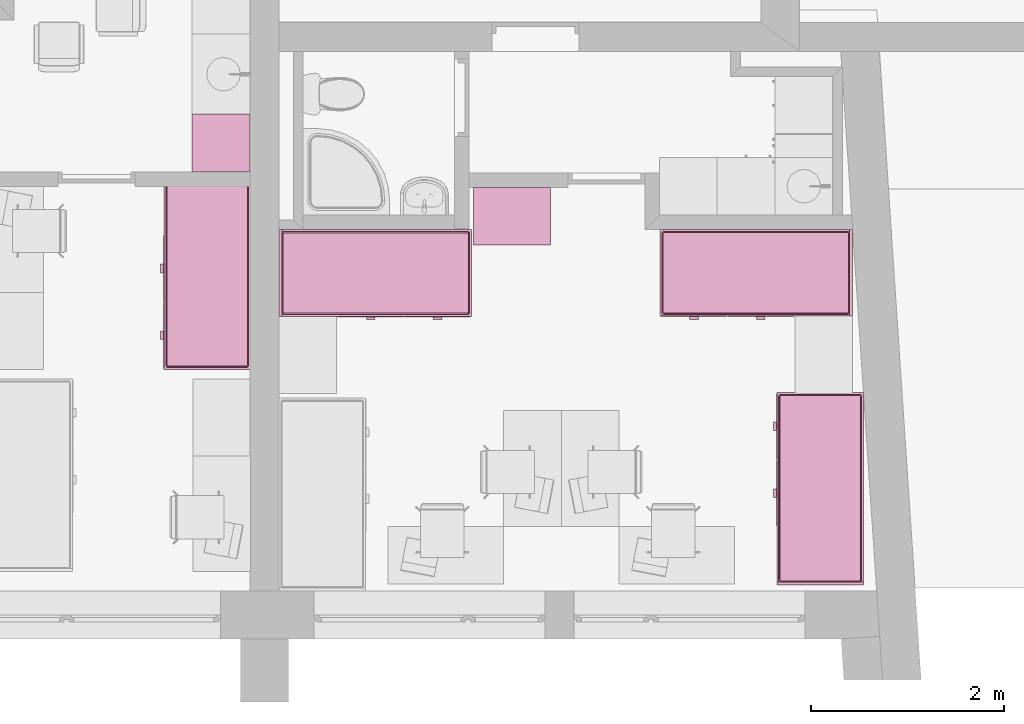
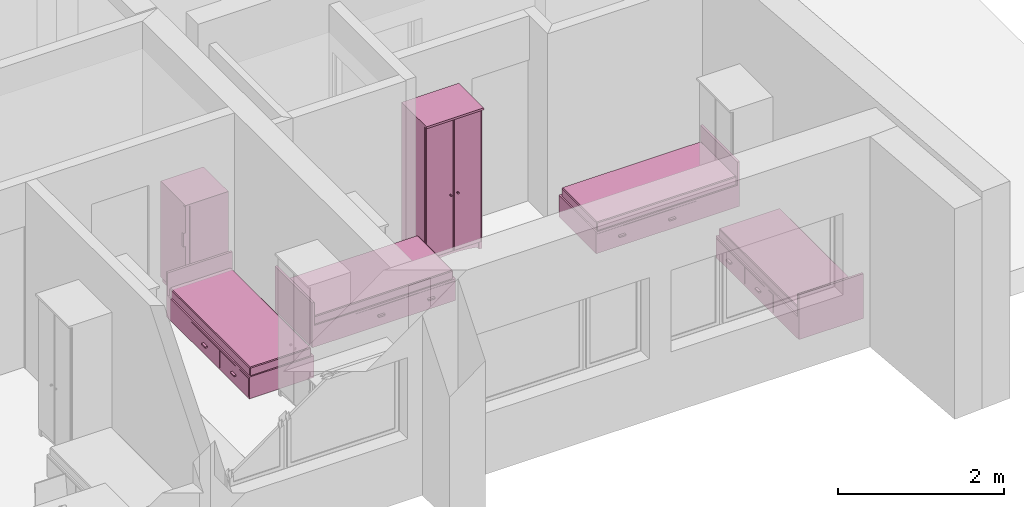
# One storey, part 148 of 172: 6 furnishings.
"""IFC2X3 building model written with IfcOpenShell, lengths in millimetres."""

from ifc_helpers import new_model, entity, si_unit, converted_unit, money_unit, direction, frame, origin_with_axes, place, context, subcontext, project, spatial, open_shell, faceted_brep, surface_model, source, transform, mapped, material, material_list, type_object, element, save


model = new_model("IFC2X3")

# Units and contexts
model_context = context("Model", 3, precision=1e-05, world=origin_with_axes(), true_north=direction((0.0, 1.0)))
body_context = subcontext(model_context, "Body", "Model", "MODEL_VIEW")
ifc_project = project(units=[si_unit("LENGTHUNIT", "METRE", prefix="MILLI"), si_unit("AREAUNIT", "SQUARE_METRE"), si_unit("VOLUMEUNIT", "CUBIC_METRE"), converted_unit("PLANEANGLEUNIT", "DEGREE", entity("IfcPlaneAngleMeasure", 0.0174532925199), si_unit("PLANEANGLEUNIT", "RADIAN"), dimensions=[0, 0, 0, 0, 0, 0, 0]), si_unit("SOLIDANGLEUNIT", "STERADIAN"), money_unit("USD"), converted_unit("TIMEUNIT", "Year", entity("IfcTimeMeasure", 31556926.0), si_unit("TIMEUNIT", "SECOND"), dimensions=[0, 0, 0, 0, 0, 0, 0]), si_unit("MASSUNIT", "GRAM"), si_unit("THERMODYNAMICTEMPERATUREUNIT", "DEGREE_CELSIUS"), si_unit("LUMINOUSINTENSITYUNIT", "LUMEN")], contexts=[model_context])

# Site, building, storey
site_placement = place(None, origin_with_axes())
site = spatial("IfcSite", under=ifc_project, at=site_placement, Name="Site", CompositionType="ELEMENT")
building_placement = place(site_placement, origin_with_axes())
building = spatial("IfcBuilding", under=site, at=building_placement, Name="Building", CompositionType="ELEMENT")
storey_placement = place(building_placement, frame((0.0, 0.0, 3200.0), z_axis=(0.0, 0.0, 1.0), x_axis=(1.0, 0.0, 0.0)))
storey = spatial("IfcBuildingStorey", under=building, at=storey_placement, Name="3KORRUS", CompositionType="ELEMENT", Elevation=3200.0)

# Furnishings
ifc_material = material(Name="Background")
ifc_material_list = material_list([ifc_material])
furnishing_element_type_1 = type_object("IfcFurnishingElementType", Name="Bed 19")
shared_shape_1 = source(origin_with_axes(), body_context, "Body", "Brep", [
    faceted_brep([(900.0, 1970.0, 0.0), (0.0, 1970.0, 0.0), (0.0, 2000.0, 0.0), (900.0, 2000.0, 0.0), (900.0, 1970.0, 660.0), (0.0, 1970.0, 660.0), (0.0, 2000.0, 660.0), (900.0, 2000.0, 660.0)], [[[0, 1, 2, 3]], [[1, 0, 4, 5]], [[2, 1, 5, 6]], [[3, 2, 6, 7]], [[0, 3, 7, 4]], [[5, 4, 7, 6]]]),
    faceted_brep([(900.0, 0.0, 0.0), (0.0, 0.0, 0.0), (0.0, 1970.0, 0.0), (900.0, 1970.0, 0.0), (900.0, 0.0, 320.0), (0.0, 0.0, 320.0), (0.0, 1970.0, 320.0), (900.0, 1970.0, 320.0)], [[[0, 1, 2, 3]], [[1, 0, 4, 5]], [[2, 1, 5, 6]], [[3, 2, 6, 7]], [[0, 3, 7, 4]], [[5, 4, 7, 6]]]),
    faceted_brep([(905.0, 10.0, 30.0), (900.0, 10.0, 30.0), (900.0, 695.0, 30.0), (905.0, 695.0, 30.0), (905.0, 10.0, 290.0), (900.0, 10.0, 290.0), (900.0, 695.0, 290.0), (905.0, 695.0, 290.0)], [[[0, 1, 2, 3]], [[1, 0, 4, 5]], [[2, 1, 5, 6]], [[3, 2, 6, 7]], [[0, 3, 7, 4]], [[5, 4, 7, 6]]]),
    faceted_brep([(935.0, 307.5, 150.0), (905.0, 307.5, 150.0), (905.0, 397.5, 150.0), (935.0, 397.5, 150.0), (935.0, 307.5, 170.0), (905.0, 307.5, 170.0), (905.0, 397.5, 170.0), (935.0, 397.5, 170.0)], [[[0, 1, 2, 3]], [[1, 0, 4, 5]], [[2, 1, 5, 6]], [[3, 2, 6, 7]], [[0, 3, 7, 4]], [[5, 4, 7, 6]]]),
    faceted_brep([(905.0, 705.0, 30.0), (900.0, 705.0, 30.0), (900.0, 1390.0, 30.0), (905.0, 1390.0, 30.0), (905.0, 705.0, 290.0), (900.0, 705.0, 290.0), (900.0, 1390.0, 290.0), (905.0, 1390.0, 290.0)], [[[0, 1, 2, 3]], [[1, 0, 4, 5]], [[2, 1, 5, 6]], [[3, 2, 6, 7]], [[0, 3, 7, 4]], [[5, 4, 7, 6]]]),
    faceted_brep([(935.0, 1002.5, 150.0), (905.0, 1002.5, 150.0), (905.0, 1092.5, 150.0), (935.0, 1092.5, 150.0), (935.0, 1002.5, 170.0), (905.0, 1002.5, 170.0), (905.0, 1092.5, 170.0), (935.0, 1092.5, 170.0)], [[[0, 1, 2, 3]], [[1, 0, 4, 5]], [[2, 1, 5, 6]], [[3, 2, 6, 7]], [[0, 3, 7, 4]], [[5, 4, 7, 6]]]),
    faceted_brep([(20.0, 40.0, 350.0), (20.0, 1950.0, 350.0), (21.522, 1957.654, 350.0), (25.858, 1964.142, 350.0), (32.346, 1968.478, 350.0), (40.0, 1970.0, 350.0), (860.0, 1970.0, 350.0), (867.654, 1968.478, 350.0), (874.142, 1964.142, 350.0), (878.478, 1957.654, 350.0), (880.0, 1950.0, 350.0), (880.0, 40.0, 350.0), (878.478, 32.346, 350.0), (874.142, 25.858, 350.0), (867.654, 21.522, 350.0), (860.0, 20.0, 350.0), (40.0, 20.0, 350.0), (32.346, 21.522, 350.0), (25.858, 25.858, 350.0), (21.522, 32.346, 350.0), (20.0, 40.0, 420.0), (20.0, 1950.0, 420.0), (21.522, 1957.654, 420.0), (25.858, 1964.142, 420.0), (32.346, 1968.478, 420.0), (40.0, 1970.0, 420.0), (860.0, 1970.0, 420.0), (867.654, 1968.478, 420.0), (874.142, 1964.142, 420.0), (878.478, 1957.654, 420.0), (880.0, 1950.0, 420.0), (880.0, 40.0, 420.0), (878.478, 32.346, 420.0), (874.142, 25.858, 420.0), (867.654, 21.522, 420.0), (860.0, 20.0, 420.0), (40.0, 20.0, 420.0), (32.346, 21.522, 420.0), (25.858, 25.858, 420.0), (21.522, 32.346, 420.0), (21.522, 40.15, 427.654), (21.522, 1949.85, 427.654), (22.956, 1957.06, 427.654), (26.955, 1963.045, 427.654), (32.94, 1967.044, 427.654), (40.15, 1968.478, 427.654), (859.85, 1968.478, 427.654), (867.06, 1967.044, 427.654), (873.045, 1963.045, 427.654), (877.044, 1957.06, 427.654), (878.478, 1949.85, 427.654), (878.478, 40.15, 427.654), (877.044, 32.94, 427.654), (873.045, 26.955, 427.654), (867.06, 22.956, 427.654), (859.85, 21.522, 427.654), (40.15, 21.522, 427.654), (32.94, 22.956, 427.654), (26.955, 26.955, 427.654), (22.956, 32.94, 427.654), (32.346, 41.216, 438.478), (32.346, 1948.784, 438.478), (33.152, 1952.836, 438.478), (34.759, 1955.241, 438.478), (37.164, 1956.848, 438.478), (41.216, 1957.654, 438.478), (858.784, 1957.654, 438.478), (862.836, 1956.848, 438.478), (865.241, 1955.241, 438.478), (866.848, 1952.836, 438.478), (867.654, 1948.784, 438.478), (867.654, 41.216, 438.478), (866.848, 37.164, 438.478), (865.241, 34.759, 438.478), (862.836, 33.152, 438.478), (858.784, 32.346, 438.478), (41.216, 32.346, 438.478), (37.164, 33.152, 438.478), (34.759, 34.759, 438.478), (33.152, 37.164, 438.478), (40.0, 41.97, 440.0), (40.0, 1948.03, 440.0), (40.327, 1949.673, 440.0), (40.0, 1950.0, 439.924), (41.97, 1950.0, 440.0), (858.03, 1950.0, 440.0), (859.673, 1949.673, 440.0), (860.0, 1950.0, 439.924), (860.0, 1948.03, 440.0), (860.0, 41.97, 440.0), (859.673, 40.327, 440.0), (860.0, 40.0, 439.924), (858.03, 40.0, 440.0), (41.97, 40.0, 440.0), (40.327, 40.327, 440.0), (40.0, 40.0, 439.924)], [[[0, 1, 2, 3, 4, 5, 6, 7, 8, 9, 10, 11, 12, 13, 14, 15, 16, 17, 18, 19]], [[1, 0, 20, 21]], [[2, 1, 21, 22]], [[3, 2, 22, 23]], [[4, 3, 23, 24]], [[5, 4, 24, 25]], [[6, 5, 25, 26]], [[7, 6, 26, 27]], [[8, 7, 27, 28]], [[9, 8, 28, 29]], [[10, 9, 29, 30]], [[11, 10, 30, 31]], [[12, 11, 31, 32]], [[13, 12, 32, 33]], [[14, 13, 33, 34]], [[15, 14, 34, 35]], [[16, 15, 35, 36]], [[17, 16, 36, 37]], [[18, 17, 37, 38]], [[19, 18, 38, 39]], [[0, 19, 39, 20]], [[21, 20, 40, 41]], [[22, 21, 41, 42]], [[23, 22, 42, 43]], [[24, 23, 43, 44]], [[25, 24, 44, 45]], [[26, 25, 45, 46]], [[27, 26, 46, 47]], [[28, 27, 47, 48]], [[29, 28, 48, 49]], [[30, 29, 49, 50]], [[31, 30, 50, 51]], [[32, 31, 51, 52]], [[33, 32, 52, 53]], [[34, 33, 53, 54]], [[35, 34, 54, 55]], [[36, 35, 55, 56]], [[37, 36, 56, 57]], [[38, 37, 57, 58]], [[39, 38, 58, 59]], [[20, 39, 59, 40]], [[41, 40, 60, 61]], [[42, 41, 61, 62]], [[43, 42, 62, 63]], [[44, 43, 63, 64]], [[45, 44, 64, 65]], [[46, 45, 65, 66]], [[47, 46, 66, 67]], [[48, 47, 67, 68]], [[49, 48, 68, 69]], [[50, 49, 69, 70]], [[51, 50, 70, 71]], [[52, 51, 71, 72]], [[53, 52, 72, 73]], [[54, 53, 73, 74]], [[55, 54, 74, 75]], [[56, 55, 75, 76]], [[57, 56, 76, 77]], [[58, 57, 77, 78]], [[59, 58, 78, 79]], [[40, 59, 79, 60]], [[61, 60, 80, 81]], [[62, 61, 81, 82, 83]], [[63, 62, 83]], [[64, 63, 83]], [[65, 64, 83, 82, 84]], [[66, 65, 84, 85]], [[67, 66, 85, 86, 87]], [[68, 67, 87]], [[69, 68, 87]], [[70, 69, 87, 86, 88]], [[71, 70, 88, 89]], [[72, 71, 89, 90, 91]], [[73, 72, 91]], [[74, 73, 91]], [[75, 74, 91, 90, 92]], [[76, 75, 92, 93]], [[77, 76, 93, 94, 95]], [[78, 77, 95]], [[79, 78, 95]], [[60, 79, 95, 94, 80]], [[81, 80, 94, 93, 92, 90, 89, 88, 86, 85, 84, 82]]]),
    faceted_brep([(20.0, 40.0, 350.0), (21.522, 32.346, 350.0), (25.858, 25.858, 350.0), (32.346, 21.522, 350.0), (40.0, 20.0, 350.0), (860.0, 20.0, 350.0), (867.654, 21.522, 350.0), (874.142, 25.858, 350.0), (878.478, 32.346, 350.0), (880.0, 40.0, 350.0), (880.0, 1950.0, 350.0), (878.478, 1957.654, 350.0), (874.142, 1964.142, 350.0), (867.654, 1968.478, 350.0), (860.0, 1970.0, 350.0), (40.0, 1970.0, 350.0), (32.346, 1968.478, 350.0), (25.858, 1964.142, 350.0), (21.522, 1957.654, 350.0), (20.0, 1950.0, 350.0), (20.0, 40.0, 320.0), (21.522, 32.346, 320.0), (25.858, 25.858, 320.0), (32.346, 21.522, 320.0), (40.0, 20.0, 320.0), (860.0, 20.0, 320.0), (867.654, 21.522, 320.0), (874.142, 25.858, 320.0), (878.478, 32.346, 320.0), (880.0, 40.0, 320.0), (880.0, 1950.0, 320.0), (878.478, 1957.654, 320.0), (874.142, 1964.142, 320.0), (867.654, 1968.478, 320.0), (860.0, 1970.0, 320.0), (40.0, 1970.0, 320.0), (32.346, 1968.478, 320.0), (25.858, 1964.142, 320.0), (21.522, 1957.654, 320.0), (20.0, 1950.0, 320.0)], [[[0, 1, 2, 3, 4, 5, 6, 7, 8, 9, 10, 11, 12, 13, 14, 15, 16, 17, 18, 19]], [[0, 20, 21, 1]], [[1, 21, 22, 2]], [[2, 22, 23, 3]], [[3, 23, 24, 4]], [[4, 24, 25, 5]], [[5, 25, 26, 6]], [[6, 26, 27, 7]], [[7, 27, 28, 8]], [[8, 28, 29, 9]], [[9, 29, 30, 10]], [[10, 30, 31, 11]], [[11, 31, 32, 12]], [[12, 32, 33, 13]], [[13, 33, 34, 14]], [[14, 34, 35, 15]], [[15, 35, 36, 16]], [[16, 36, 37, 17]], [[17, 37, 38, 18]], [[18, 38, 39, 19]], [[19, 39, 20, 0]], [[20, 39, 38, 37, 36, 35, 34, 33, 32, 31, 30, 29, 28, 27, 26, 25, 24, 23, 22, 21]]]),
])
for number, where, z_axis, x_axis, name in (
    (1, (15968.0609283, -15888.0262806, 0.0), (0.0, 0.0, 1.0), (0.0, -1.0, 0.0), "FU - 013"),
    (2, (18080.4578375, -17578.2052379, 0.0), (0.0, 0.0, 1.0), (-1.0, 0.0, 0.0), "FU - 013"),
):
    element("IfcFurnishingElement", number, at=place(storey_placement, frame(where, z_axis=z_axis, x_axis=x_axis)), inside=storey, type_object=furnishing_element_type_1, material=ifc_material_list, Name=name, context=body_context, shape_type="MappedRepresentation", body=[
        mapped(shared_shape_1, transform((0.0, 0.0, 0.0))),
    ])
furnishing_element_type_2 = type_object("IfcFurnishingElementType", Name="Cupboard 19")
shared_shape_2 = source(origin_with_axes(), body_context, "Body", "Brep", [
    faceted_brep([(780.0, 600.0, 120.0), (780.0, 600.0, 2050.0), (780.0, 580.0, 2050.0), (780.0, 580.0, 120.0), (20.0, 600.0, 120.0), (20.0, 600.0, 2050.0), (20.0, 580.0, 2050.0), (20.0, 580.0, 120.0)], [[[0, 1, 2, 3]], [[4, 5, 1, 0]], [[1, 5, 6, 2]], [[3, 2, 6, 7]], [[0, 3, 7, 4]], [[7, 6, 5, 4]]]),
    faceted_brep([(0.0, 50.0, 100.0), (0.0, 600.0, 100.0), (20.0, 600.0, 100.0), (20.0, 50.0, 100.0), (0.0, 50.0, 2070.0), (0.0, 600.0, 2070.0), (20.0, 600.0, 2070.0), (20.0, 50.0, 2070.0)], [[[0, 1, 2, 3]], [[0, 4, 5, 1]], [[1, 5, 6, 2]], [[2, 6, 7, 3]], [[3, 7, 4, 0]], [[7, 6, 5, 4]]]),
    faceted_brep([(780.0, 50.0, 100.0), (780.0, 600.0, 100.0), (800.0, 600.0, 100.0), (800.0, 50.0, 100.0), (780.0, 50.0, 2070.0), (780.0, 600.0, 2070.0), (800.0, 600.0, 2070.0), (800.0, 50.0, 2070.0)], [[[0, 1, 2, 3]], [[0, 4, 5, 1]], [[1, 5, 6, 2]], [[2, 6, 7, 3]], [[3, 7, 4, 0]], [[7, 6, 5, 4]]]),
    faceted_brep([(20.0, 50.0, 100.0), (20.0, 600.0, 100.0), (780.0, 600.0, 100.0), (780.0, 50.0, 100.0), (20.0, 50.0, 120.0), (20.0, 600.0, 120.0), (780.0, 600.0, 120.0), (780.0, 50.0, 120.0)], [[[0, 1, 2, 3]], [[0, 4, 5, 1]], [[1, 5, 6, 2]], [[2, 6, 7, 3]], [[3, 7, 4, 0]], [[7, 6, 5, 4]]]),
    faceted_brep([(20.0, 50.0, 2050.0), (20.0, 600.0, 2050.0), (780.0, 600.0, 2050.0), (780.0, 50.0, 2050.0), (20.0, 50.0, 2070.0), (20.0, 600.0, 2070.0), (780.0, 600.0, 2070.0), (780.0, 50.0, 2070.0)], [[[0, 1, 2, 3]], [[0, 4, 5, 1]], [[1, 5, 6, 2]], [[2, 6, 7, 3]], [[3, 7, 4, 0]], [[7, 6, 5, 4]]]),
    faceted_brep([(0.0, 600.0, 2070.0), (0.0, 0.0, 2070.0), (0.0, 0.0, 2100.0), (0.0, 600.0, 2100.0), (800.0, 600.0, 2070.0), (800.0, 0.0, 2070.0), (800.0, 0.0, 2100.0), (800.0, 600.0, 2100.0)], [[[0, 1, 2, 3]], [[0, 4, 5, 1]], [[1, 5, 6, 2]], [[3, 2, 6, 7]], [[4, 0, 3, 7]], [[5, 4, 7, 6]]]),
    faceted_brep([(760.0, 590.0, 25.0), (760.0, 570.0, 25.0), (640.962, 570.0, 45.8), (640.962, 590.0, 45.8), (760.0, 590.0, 100.0), (760.0, 570.0, 100.0), (40.0, 570.0, 100.0), (40.0, 570.0, 25.0), (159.038, 570.0, 45.8), (279.23, 570.0, 58.32), (400.0, 570.0, 62.5), (520.77, 570.0, 58.32), (520.77, 590.0, 58.32), (400.0, 590.0, 62.5), (279.23, 590.0, 58.32), (159.038, 590.0, 45.8), (40.0, 590.0, 25.0), (40.0, 590.0, 100.0)], [[[0, 1, 2, 3]], [[4, 5, 1, 0]], [[1, 5, 6, 7, 8, 9, 10, 11, 2]], [[3, 2, 11, 12]], [[0, 3, 12, 13, 14, 15, 16, 17, 4]], [[17, 6, 5, 4]], [[16, 7, 6, 17]], [[15, 8, 7, 16]], [[14, 9, 8, 15]], [[13, 10, 9, 14]], [[12, 11, 10, 13]]]),
    faceted_brep([(760.0, 80.0, 25.0), (760.0, 60.0, 25.0), (640.962, 60.0, 45.8), (640.962, 80.0, 45.8), (760.0, 80.0, 100.0), (760.0, 60.0, 100.0), (40.0, 60.0, 100.0), (40.0, 60.0, 25.0), (159.038, 60.0, 45.8), (279.23, 60.0, 58.32), (400.0, 60.0, 62.5), (520.77, 60.0, 58.32), (520.77, 80.0, 58.32), (400.0, 80.0, 62.5), (279.23, 80.0, 58.32), (159.038, 80.0, 45.8), (40.0, 80.0, 25.0), (40.0, 80.0, 100.0)], [[[0, 1, 2, 3]], [[4, 5, 1, 0]], [[1, 5, 6, 7, 8, 9, 10, 11, 2]], [[3, 2, 11, 12]], [[0, 3, 12, 13, 14, 15, 16, 17, 4]], [[17, 6, 5, 4]], [[16, 7, 6, 17]], [[15, 8, 7, 16]], [[14, 9, 8, 15]], [[13, 10, 9, 14]], [[12, 11, 10, 13]]]),
    faceted_brep([(790.0, 90.0, 25.0), (770.0, 90.0, 25.0), (770.0, 141.266, 38.072), (790.0, 141.266, 38.072), (790.0, 90.0, 100.0), (770.0, 90.0, 100.0), (770.0, 560.0, 100.0), (770.0, 560.0, 25.0), (770.0, 508.734, 38.072), (770.0, 456.752, 47.92), (770.0, 404.257, 54.508), (770.0, 351.453, 57.808), (770.0, 298.547, 57.808), (770.0, 245.743, 54.508), (770.0, 193.248, 47.92), (790.0, 193.248, 47.92), (790.0, 245.743, 54.508), (790.0, 298.547, 57.808), (790.0, 351.453, 57.808), (790.0, 404.257, 54.508), (790.0, 456.752, 47.92), (790.0, 508.734, 38.072), (790.0, 560.0, 25.0), (790.0, 560.0, 100.0)], [[[0, 1, 2, 3]], [[4, 5, 1, 0]], [[1, 5, 6, 7, 8, 9, 10, 11, 12, 13, 14, 2]], [[3, 2, 14, 15]], [[0, 3, 15, 16, 17, 18, 19, 20, 21, 22, 23, 4]], [[23, 6, 5, 4]], [[22, 7, 6, 23]], [[21, 8, 7, 22]], [[20, 9, 8, 21]], [[19, 10, 9, 20]], [[18, 11, 10, 19]], [[17, 12, 11, 18]], [[16, 13, 12, 17]], [[15, 14, 13, 16]]]),
    faceted_brep([(30.0, 90.0, 25.0), (10.0, 90.0, 25.0), (10.0, 141.266, 38.072), (30.0, 141.266, 38.072), (30.0, 90.0, 100.0), (10.0, 90.0, 100.0), (10.0, 560.0, 100.0), (10.0, 560.0, 25.0), (10.0, 508.734, 38.072), (10.0, 456.752, 47.92), (10.0, 404.257, 54.508), (10.0, 351.453, 57.808), (10.0, 298.547, 57.808), (10.0, 245.743, 54.508), (10.0, 193.248, 47.92), (30.0, 193.248, 47.92), (30.0, 245.743, 54.508), (30.0, 298.547, 57.808), (30.0, 351.453, 57.808), (30.0, 404.257, 54.508), (30.0, 456.752, 47.92), (30.0, 508.734, 38.072), (30.0, 560.0, 25.0), (30.0, 560.0, 100.0)], [[[0, 1, 2, 3]], [[4, 5, 1, 0]], [[1, 5, 6, 7, 8, 9, 10, 11, 12, 13, 14, 2]], [[3, 2, 14, 15]], [[0, 3, 15, 16, 17, 18, 19, 20, 21, 22, 23, 4]], [[23, 6, 5, 4]], [[22, 7, 6, 23]], [[21, 8, 7, 22]], [[20, 9, 8, 21]], [[19, 10, 9, 20]], [[18, 11, 10, 19]], [[17, 12, 11, 18]], [[16, 13, 12, 17]], [[15, 14, 13, 16]]]),
    faceted_brep([(760.0, 560.0, 0.0), (760.0, 560.0, 100.0), (760.0, 600.0, 100.0), (760.0, 600.0, 0.0), (800.0, 560.0, 0.0), (800.0, 560.0, 100.0), (800.0, 600.0, 100.0), (800.0, 600.0, 0.0)], [[[0, 1, 2, 3]], [[4, 5, 1, 0]], [[1, 5, 6, 2]], [[3, 2, 6, 7]], [[0, 3, 7, 4]], [[7, 6, 5, 4]]]),
    faceted_brep([(0.0, 560.0, 0.0), (0.0, 560.0, 100.0), (0.0, 600.0, 100.0), (0.0, 600.0, 0.0), (40.0, 560.0, 0.0), (40.0, 560.0, 100.0), (40.0, 600.0, 100.0), (40.0, 600.0, 0.0)], [[[0, 1, 2, 3]], [[4, 5, 1, 0]], [[1, 5, 6, 2]], [[3, 2, 6, 7]], [[0, 3, 7, 4]], [[7, 6, 5, 4]]]),
    faceted_brep([(760.0, 50.0, 0.0), (760.0, 50.0, 100.0), (760.0, 90.0, 100.0), (760.0, 90.0, 0.0), (800.0, 50.0, 0.0), (800.0, 50.0, 100.0), (800.0, 90.0, 100.0), (800.0, 90.0, 0.0)], [[[0, 1, 2, 3]], [[4, 5, 1, 0]], [[1, 5, 6, 2]], [[3, 2, 6, 7]], [[0, 3, 7, 4]], [[7, 6, 5, 4]]]),
    faceted_brep([(0.0, 50.0, 0.0), (0.0, 50.0, 100.0), (0.0, 90.0, 100.0), (0.0, 90.0, 0.0), (40.0, 50.0, 0.0), (40.0, 50.0, 100.0), (40.0, 90.0, 100.0), (40.0, 90.0, 0.0)], [[[0, 1, 2, 3]], [[4, 5, 1, 0]], [[1, 5, 6, 2]], [[3, 2, 6, 7]], [[0, 3, 7, 4]], [[7, 6, 5, 4]]]),
    faceted_brep([(780.0, 580.0, 587.5), (780.0, 580.0, 607.5), (780.0, 50.0, 607.5), (780.0, 50.0, 587.5), (20.0, 580.0, 587.5), (20.0, 580.0, 607.5), (20.0, 50.0, 607.5), (20.0, 50.0, 587.5)], [[[0, 1, 2, 3]], [[4, 5, 1, 0]], [[1, 5, 6, 2]], [[3, 2, 6, 7]], [[0, 3, 7, 4]], [[7, 6, 5, 4]]]),
    faceted_brep([(780.0, 580.0, 1075.0), (780.0, 580.0, 1095.0), (780.0, 50.0, 1095.0), (780.0, 50.0, 1075.0), (20.0, 580.0, 1075.0), (20.0, 580.0, 1095.0), (20.0, 50.0, 1095.0), (20.0, 50.0, 1075.0)], [[[0, 1, 2, 3]], [[4, 5, 1, 0]], [[1, 5, 6, 2]], [[3, 2, 6, 7]], [[0, 3, 7, 4]], [[7, 6, 5, 4]]]),
    faceted_brep([(780.0, 580.0, 1562.5), (780.0, 580.0, 1582.5), (780.0, 50.0, 1582.5), (780.0, 50.0, 1562.5), (20.0, 580.0, 1562.5), (20.0, 580.0, 1582.5), (20.0, 50.0, 1582.5), (20.0, 50.0, 1562.5)], [[[0, 1, 2, 3]], [[4, 5, 1, 0]], [[1, 5, 6, 2]], [[3, 2, 6, 7]], [[0, 3, 7, 4]], [[7, 6, 5, 4]]]),
    faceted_brep([(789.5, 50.0, 110.5), (400.5, 50.0, 110.5), (400.5, 50.0, 2059.5), (789.5, 50.0, 2059.5), (789.5, 40.0, 110.5), (400.5, 40.0, 110.5), (400.5, 40.0, 2059.5), (789.5, 40.0, 2059.5), (779.5, 30.0, 120.5), (410.5, 30.0, 120.5), (410.5, 30.0, 2049.5), (779.5, 30.0, 2049.5)], [[[0, 1, 2, 3]], [[0, 4, 5, 1]], [[1, 5, 6, 2]], [[2, 6, 7, 3]], [[3, 7, 4, 0]], [[4, 8, 9, 5]], [[5, 9, 10, 6]], [[6, 10, 11, 7]], [[7, 11, 8, 4]], [[10, 9, 8, 11]]]),
    faceted_brep([(399.5, 50.0, 110.5), (10.5, 50.0, 110.5), (10.5, 50.0, 2059.5), (399.5, 50.0, 2059.5), (399.5, 40.0, 110.5), (10.5, 40.0, 110.5), (10.5, 40.0, 2059.5), (399.5, 40.0, 2059.5), (389.5, 30.0, 120.5), (20.5, 30.0, 120.5), (20.5, 30.0, 2049.5), (389.5, 30.0, 2049.5)], [[[0, 1, 2, 3]], [[0, 4, 5, 1]], [[1, 5, 6, 2]], [[2, 6, 7, 3]], [[3, 7, 4, 0]], [[4, 8, 9, 5]], [[5, 9, 10, 6]], [[6, 10, 11, 7]], [[7, 11, 8, 4]], [[10, 9, 8, 11]]]),
    faceted_brep([(339.608, 30.0, 954.0), (338.0, 30.0, 960.0), (339.608, 30.0, 966.0), (344.0, 30.0, 970.392), (350.0, 30.0, 972.0), (356.0, 30.0, 970.392), (360.392, 30.0, 966.0), (362.0, 30.0, 960.0), (360.392, 30.0, 954.0), (356.0, 30.0, 949.608), (350.0, 30.0, 948.0), (344.0, 30.0, 949.608), (339.608, 5.0, 954.0), (338.0, 5.0, 960.0), (339.608, 5.0, 966.0), (344.0, 5.0, 970.392), (350.0, 5.0, 972.0), (356.0, 5.0, 970.392), (360.392, 5.0, 966.0), (362.0, 5.0, 960.0), (360.392, 5.0, 954.0), (356.0, 5.0, 949.608), (350.0, 5.0, 948.0), (344.0, 5.0, 949.608)], [[[0, 1, 2, 3, 4, 5, 6, 7, 8, 9, 10, 11]], [[0, 12, 13, 1]], [[1, 13, 14, 2]], [[2, 14, 15, 3]], [[3, 15, 16, 4]], [[4, 16, 17, 5]], [[5, 17, 18, 6]], [[6, 18, 19, 7]], [[7, 19, 20, 8]], [[8, 20, 21, 9]], [[9, 21, 22, 10]], [[10, 22, 23, 11]], [[11, 23, 12, 0]], [[12, 23, 22, 21, 20, 19, 18, 17, 16, 15, 14, 13]]]),
    faceted_brep([(460.392, 30.0, 954.0), (456.0, 30.0, 949.608), (450.0, 30.0, 948.0), (444.0, 30.0, 949.608), (439.608, 30.0, 954.0), (438.0, 30.0, 960.0), (439.608, 30.0, 966.0), (444.0, 30.0, 970.392), (450.0, 30.0, 972.0), (456.0, 30.0, 970.392), (460.392, 30.0, 966.0), (462.0, 30.0, 960.0), (460.392, 5.0, 954.0), (456.0, 5.0, 949.608), (450.0, 5.0, 948.0), (444.0, 5.0, 949.608), (439.608, 5.0, 954.0), (438.0, 5.0, 960.0), (439.608, 5.0, 966.0), (444.0, 5.0, 970.392), (450.0, 5.0, 972.0), (456.0, 5.0, 970.392), (460.392, 5.0, 966.0), (462.0, 5.0, 960.0)], [[[0, 1, 2, 3, 4, 5, 6, 7, 8, 9, 10, 11]], [[1, 0, 12, 13]], [[2, 1, 13, 14]], [[3, 2, 14, 15]], [[4, 3, 15, 16]], [[5, 4, 16, 17]], [[6, 5, 17, 18]], [[7, 6, 18, 19]], [[8, 7, 19, 20]], [[9, 8, 20, 21]], [[10, 9, 21, 22]], [[11, 10, 22, 23]], [[0, 11, 23, 12]], [[12, 23, 22, 21, 20, 19, 18, 17, 16, 15, 14, 13]]]),
])
furnishing_1_placement = place(storey_placement, frame((14029.1036899, -16048.5106464, 0.0), z_axis=(0.0, 0.0, 1.0), x_axis=(1.0, 0.0, 0.0)))
element("IfcFurnishingElement", 3, at=furnishing_1_placement, inside=storey, type_object=furnishing_element_type_2, material=ifc_material_list, Name="FU - 014", context=body_context, shape_type="MappedRepresentation", body=[
    mapped(shared_shape_2, transform((0.0, 0.0, 0.0))),
])
shared_shape_3 = source(origin_with_axes(), body_context, "Body", "Brep", [
    faceted_brep([(-900.0, 1970.0, 0.0), (-900.0, 2000.0, 0.0), (0.0, 2000.0, 0.0), (0.0, 1970.0, 0.0), (-900.0, 1970.0, 660.0), (-900.0, 2000.0, 660.0), (0.0, 2000.0, 660.0), (0.0, 1970.0, 660.0)], [[[0, 1, 2, 3]], [[0, 4, 5, 1]], [[1, 5, 6, 2]], [[2, 6, 7, 3]], [[3, 7, 4, 0]], [[7, 6, 5, 4]]]),
    faceted_brep([(-900.0, 0.0, 0.0), (-900.0, 1970.0, 0.0), (0.0, 1970.0, 0.0), (0.0, 0.0, 0.0), (-900.0, 0.0, 320.0), (-900.0, 1970.0, 320.0), (0.0, 1970.0, 320.0), (0.0, 0.0, 320.0)], [[[0, 1, 2, 3]], [[0, 4, 5, 1]], [[1, 5, 6, 2]], [[2, 6, 7, 3]], [[3, 7, 4, 0]], [[7, 6, 5, 4]]]),
    faceted_brep([(-905.0, 10.0, 30.0), (-905.0, 695.0, 30.0), (-900.0, 695.0, 30.0), (-900.0, 10.0, 30.0), (-905.0, 10.0, 290.0), (-905.0, 695.0, 290.0), (-900.0, 695.0, 290.0), (-900.0, 10.0, 290.0)], [[[0, 1, 2, 3]], [[0, 4, 5, 1]], [[1, 5, 6, 2]], [[2, 6, 7, 3]], [[3, 7, 4, 0]], [[7, 6, 5, 4]]]),
    faceted_brep([(-935.0, 307.5, 150.0), (-935.0, 397.5, 150.0), (-905.0, 397.5, 150.0), (-905.0, 307.5, 150.0), (-935.0, 307.5, 170.0), (-935.0, 397.5, 170.0), (-905.0, 397.5, 170.0), (-905.0, 307.5, 170.0)], [[[0, 1, 2, 3]], [[0, 4, 5, 1]], [[1, 5, 6, 2]], [[2, 6, 7, 3]], [[3, 7, 4, 0]], [[7, 6, 5, 4]]]),
    faceted_brep([(-905.0, 705.0, 30.0), (-905.0, 1390.0, 30.0), (-900.0, 1390.0, 30.0), (-900.0, 705.0, 30.0), (-905.0, 705.0, 290.0), (-905.0, 1390.0, 290.0), (-900.0, 1390.0, 290.0), (-900.0, 705.0, 290.0)], [[[0, 1, 2, 3]], [[0, 4, 5, 1]], [[1, 5, 6, 2]], [[2, 6, 7, 3]], [[3, 7, 4, 0]], [[7, 6, 5, 4]]]),
    faceted_brep([(-935.0, 1002.5, 150.0), (-935.0, 1092.5, 150.0), (-905.0, 1092.5, 150.0), (-905.0, 1002.5, 150.0), (-935.0, 1002.5, 170.0), (-935.0, 1092.5, 170.0), (-905.0, 1092.5, 170.0), (-905.0, 1002.5, 170.0)], [[[0, 1, 2, 3]], [[0, 4, 5, 1]], [[1, 5, 6, 2]], [[2, 6, 7, 3]], [[3, 7, 4, 0]], [[7, 6, 5, 4]]]),
    faceted_brep([(-20.0, 40.0, 350.0), (-21.522, 32.346, 350.0), (-25.858, 25.858, 350.0), (-32.346, 21.522, 350.0), (-40.0, 20.0, 350.0), (-860.0, 20.0, 350.0), (-867.654, 21.522, 350.0), (-874.142, 25.858, 350.0), (-878.478, 32.346, 350.0), (-880.0, 40.0, 350.0), (-880.0, 1950.0, 350.0), (-878.478, 1957.654, 350.0), (-874.142, 1964.142, 350.0), (-867.654, 1968.478, 350.0), (-860.0, 1970.0, 350.0), (-40.0, 1970.0, 350.0), (-32.346, 1968.478, 350.0), (-25.858, 1964.142, 350.0), (-21.522, 1957.654, 350.0), (-20.0, 1950.0, 350.0), (-20.0, 40.0, 420.0), (-21.522, 32.346, 420.0), (-25.858, 25.858, 420.0), (-32.346, 21.522, 420.0), (-40.0, 20.0, 420.0), (-860.0, 20.0, 420.0), (-867.654, 21.522, 420.0), (-874.142, 25.858, 420.0), (-878.478, 32.346, 420.0), (-880.0, 40.0, 420.0), (-880.0, 1950.0, 420.0), (-878.478, 1957.654, 420.0), (-874.142, 1964.142, 420.0), (-867.654, 1968.478, 420.0), (-860.0, 1970.0, 420.0), (-40.0, 1970.0, 420.0), (-32.346, 1968.478, 420.0), (-25.858, 1964.142, 420.0), (-21.522, 1957.654, 420.0), (-20.0, 1950.0, 420.0), (-21.522, 40.15, 427.654), (-22.956, 32.94, 427.654), (-26.955, 26.955, 427.654), (-32.94, 22.956, 427.654), (-40.15, 21.522, 427.654), (-859.85, 21.522, 427.654), (-867.06, 22.956, 427.654), (-873.045, 26.955, 427.654), (-877.044, 32.94, 427.654), (-878.478, 40.15, 427.654), (-878.478, 1949.85, 427.654), (-877.044, 1957.06, 427.654), (-873.045, 1963.045, 427.654), (-867.06, 1967.044, 427.654), (-859.85, 1968.478, 427.654), (-40.15, 1968.478, 427.654), (-32.94, 1967.044, 427.654), (-26.955, 1963.045, 427.654), (-22.956, 1957.06, 427.654), (-21.522, 1949.85, 427.654), (-32.346, 41.216, 438.478), (-33.152, 37.164, 438.478), (-34.759, 34.759, 438.478), (-37.164, 33.152, 438.478), (-41.216, 32.346, 438.478), (-858.784, 32.346, 438.478), (-862.836, 33.152, 438.478), (-865.241, 34.759, 438.478), (-866.848, 37.164, 438.478), (-867.654, 41.216, 438.478), (-867.654, 1948.784, 438.478), (-866.848, 1952.836, 438.478), (-865.241, 1955.241, 438.478), (-862.836, 1956.848, 438.478), (-858.784, 1957.654, 438.478), (-41.216, 1957.654, 438.478), (-37.164, 1956.848, 438.478), (-34.759, 1955.241, 438.478), (-33.152, 1952.836, 438.478), (-32.346, 1948.784, 438.478), (-40.0, 41.97, 440.0), (-40.327, 40.327, 440.0), (-40.0, 40.0, 439.924), (-41.97, 40.0, 440.0), (-858.03, 40.0, 440.0), (-859.673, 40.327, 440.0), (-860.0, 40.0, 439.924), (-860.0, 41.97, 440.0), (-860.0, 1948.03, 440.0), (-859.673, 1949.673, 440.0), (-860.0, 1950.0, 439.924), (-858.03, 1950.0, 440.0), (-41.97, 1950.0, 440.0), (-40.327, 1949.673, 440.0), (-40.0, 1950.0, 439.924), (-40.0, 1948.03, 440.0)], [[[0, 1, 2, 3, 4, 5, 6, 7, 8, 9, 10, 11, 12, 13, 14, 15, 16, 17, 18, 19]], [[0, 20, 21, 1]], [[1, 21, 22, 2]], [[2, 22, 23, 3]], [[3, 23, 24, 4]], [[4, 24, 25, 5]], [[5, 25, 26, 6]], [[6, 26, 27, 7]], [[7, 27, 28, 8]], [[8, 28, 29, 9]], [[9, 29, 30, 10]], [[10, 30, 31, 11]], [[11, 31, 32, 12]], [[12, 32, 33, 13]], [[13, 33, 34, 14]], [[14, 34, 35, 15]], [[15, 35, 36, 16]], [[16, 36, 37, 17]], [[17, 37, 38, 18]], [[18, 38, 39, 19]], [[19, 39, 20, 0]], [[20, 40, 41, 21]], [[21, 41, 42, 22]], [[22, 42, 43, 23]], [[23, 43, 44, 24]], [[24, 44, 45, 25]], [[25, 45, 46, 26]], [[26, 46, 47, 27]], [[27, 47, 48, 28]], [[28, 48, 49, 29]], [[29, 49, 50, 30]], [[30, 50, 51, 31]], [[31, 51, 52, 32]], [[32, 52, 53, 33]], [[33, 53, 54, 34]], [[34, 54, 55, 35]], [[35, 55, 56, 36]], [[36, 56, 57, 37]], [[37, 57, 58, 38]], [[38, 58, 59, 39]], [[39, 59, 40, 20]], [[40, 60, 61, 41]], [[41, 61, 62, 42]], [[42, 62, 63, 43]], [[43, 63, 64, 44]], [[44, 64, 65, 45]], [[45, 65, 66, 46]], [[46, 66, 67, 47]], [[47, 67, 68, 48]], [[48, 68, 69, 49]], [[49, 69, 70, 50]], [[50, 70, 71, 51]], [[51, 71, 72, 52]], [[52, 72, 73, 53]], [[53, 73, 74, 54]], [[54, 74, 75, 55]], [[55, 75, 76, 56]], [[56, 76, 77, 57]], [[57, 77, 78, 58]], [[58, 78, 79, 59]], [[59, 79, 60, 40]], [[60, 80, 81, 82, 61]], [[61, 82, 62]], [[62, 82, 63]], [[63, 82, 81, 83, 64]], [[64, 83, 84, 65]], [[65, 84, 85, 86, 66]], [[66, 86, 67]], [[67, 86, 68]], [[68, 86, 85, 87, 69]], [[69, 87, 88, 70]], [[70, 88, 89, 90, 71]], [[71, 90, 72]], [[72, 90, 73]], [[73, 90, 89, 91, 74]], [[74, 91, 92, 75]], [[75, 92, 93, 94, 76]], [[76, 94, 77]], [[77, 94, 78]], [[78, 94, 93, 95, 79]], [[79, 95, 80, 60]], [[95, 93, 92, 91, 89, 88, 87, 85, 84, 83, 81, 80]]]),
    faceted_brep([(-20.0, 40.0, 350.0), (-20.0, 1950.0, 350.0), (-21.522, 1957.654, 350.0), (-25.858, 1964.142, 350.0), (-32.346, 1968.478, 350.0), (-40.0, 1970.0, 350.0), (-860.0, 1970.0, 350.0), (-867.654, 1968.478, 350.0), (-874.142, 1964.142, 350.0), (-878.478, 1957.654, 350.0), (-880.0, 1950.0, 350.0), (-880.0, 40.0, 350.0), (-878.478, 32.346, 350.0), (-874.142, 25.858, 350.0), (-867.654, 21.522, 350.0), (-860.0, 20.0, 350.0), (-40.0, 20.0, 350.0), (-32.346, 21.522, 350.0), (-25.858, 25.858, 350.0), (-21.522, 32.346, 350.0), (-20.0, 40.0, 320.0), (-20.0, 1950.0, 320.0), (-21.522, 1957.654, 320.0), (-25.858, 1964.142, 320.0), (-32.346, 1968.478, 320.0), (-40.0, 1970.0, 320.0), (-860.0, 1970.0, 320.0), (-867.654, 1968.478, 320.0), (-874.142, 1964.142, 320.0), (-878.478, 1957.654, 320.0), (-880.0, 1950.0, 320.0), (-880.0, 40.0, 320.0), (-878.478, 32.346, 320.0), (-874.142, 25.858, 320.0), (-867.654, 21.522, 320.0), (-860.0, 20.0, 320.0), (-40.0, 20.0, 320.0), (-32.346, 21.522, 320.0), (-25.858, 25.858, 320.0), (-21.522, 32.346, 320.0)], [[[0, 1, 2, 3, 4, 5, 6, 7, 8, 9, 10, 11, 12, 13, 14, 15, 16, 17, 18, 19]], [[1, 0, 20, 21]], [[2, 1, 21, 22]], [[3, 2, 22, 23]], [[4, 3, 23, 24]], [[5, 4, 24, 25]], [[6, 5, 25, 26]], [[7, 6, 26, 27]], [[8, 7, 27, 28]], [[9, 8, 28, 29]], [[10, 9, 29, 30]], [[11, 10, 30, 31]], [[12, 11, 31, 32]], [[13, 12, 32, 33]], [[14, 13, 33, 34]], [[15, 14, 34, 35]], [[16, 15, 35, 36]], [[17, 16, 36, 37]], [[18, 17, 37, 38]], [[19, 18, 38, 39]], [[0, 19, 39, 20]], [[20, 39, 38, 37, 36, 35, 34, 33, 32, 31, 30, 29, 28, 27, 26, 25, 24, 23, 22, 21]]]),
])
for number, where, z_axis, x_axis, name in (
    (4, (14009.7032967, -15889.0262806, 0.0), (0.0, 0.0, 1.0), (0.0, 1.0, 0.0), "FU - 013"),
    (5, (11715.991692, -17339.2398994, 0.0), (0.0, 0.0, 1.0), (1.0, 0.0, 0.0), "FU - 013"),
):
    element("IfcFurnishingElement", number, at=place(storey_placement, frame(where, z_axis=z_axis, x_axis=x_axis)), inside=storey, type_object=furnishing_element_type_1, material=ifc_material_list, Name=name, context=body_context, shape_type="MappedRepresentation", body=[
        mapped(shared_shape_3, transform((0.0, 0.0, 0.0))),
    ])
furnishing_element_type_3 = type_object("IfcFurnishingElementType", Name="Refrigerator 19")
shared_shape_4 = source(origin_with_axes(), body_context, "Body", "SurfaceModel", [
    faceted_brep([(0.0, 0.0, 1475.0), (600.0, 0.0, 1475.0), (600.0, 0.0, 1500.0), (0.0, 0.0, 1500.0), (0.0, 600.0, 1475.0), (600.0, 600.0, 1475.0), (600.0, 600.0, 1500.0), (0.0, 600.0, 1500.0)], [[[0, 1, 2, 3]], [[0, 4, 5, 1]], [[1, 5, 6, 2]], [[3, 2, 6, 7]], [[4, 0, 3, 7]], [[5, 4, 7, 6]]]),
    faceted_brep([(0.0, 65.0, 0.0), (600.0, 65.0, 0.0), (600.0, 65.0, 1475.0), (0.0, 65.0, 1475.0), (0.0, 600.0, 0.0), (600.0, 600.0, 0.0), (600.0, 600.0, 1475.0), (0.0, 600.0, 1475.0)], [[[0, 1, 2, 3]], [[0, 4, 5, 1]], [[1, 5, 6, 2]], [[3, 2, 6, 7]], [[4, 0, 3, 7]], [[5, 4, 7, 6]]]),
    faceted_brep([(0.0, 30.0, 0.0), (600.0, 30.0, 0.0), (600.0, 30.0, 90.0), (0.0, 30.0, 90.0), (0.0, 60.0, 0.0), (600.0, 60.0, 0.0), (600.0, 60.0, 90.0), (0.0, 60.0, 90.0)], [[[0, 1, 2, 3]], [[0, 4, 5, 1]], [[1, 5, 6, 2]], [[3, 2, 6, 7]], [[4, 0, 3, 7]], [[5, 4, 7, 6]]]),
    faceted_brep([(0.0, 60.0, 90.0), (600.0, 60.0, 90.0), (600.0, 0.0, 90.0), (0.0, 0.0, 90.0), (0.0, 60.0, 1474.5), (600.0, 60.0, 1474.5), (600.0, 0.0, 1474.5), (0.0, 0.0, 1474.5)], [[[0, 1, 2, 3]], [[0, 4, 5, 1]], [[1, 5, 6, 2]], [[3, 2, 6, 7]], [[4, 0, 3, 7]], [[5, 4, 7, 6]]]),
    surface_model("IfcShellBasedSurfaceModel", [(600.0, -30.0, 900.0), (600.0, -30.0, 1100.0), (600.0, 0.0, 1100.0), (600.0, 0.0, 900.0)], [open_shell([[[0, 1, 2, 3]]])]),
    surface_model("IfcShellBasedSurfaceModel", [(600.0, -30.0, 900.0), (600.0, -30.0, 1100.0), (570.0, -30.0, 1100.0), (570.0, -30.0, 900.0)], [open_shell([[[0, 1, 2, 3]]])]),
])
furnishing_2_placement = place(storey_placement, frame((11109.7032967, -14689.2398994, 0.0), z_axis=(0.0, 0.0, 1.0), x_axis=(0.0, -1.0, 0.0)))
element("IfcFurnishingElement", 6, at=furnishing_2_placement, inside=storey, type_object=furnishing_element_type_3, material=ifc_material_list, Name="FU - 007", context=body_context, shape_type="MappedRepresentation", body=[
    mapped(shared_shape_4, transform((0.0, 0.0, 0.0))),
])

save(model, "model.ifc")
